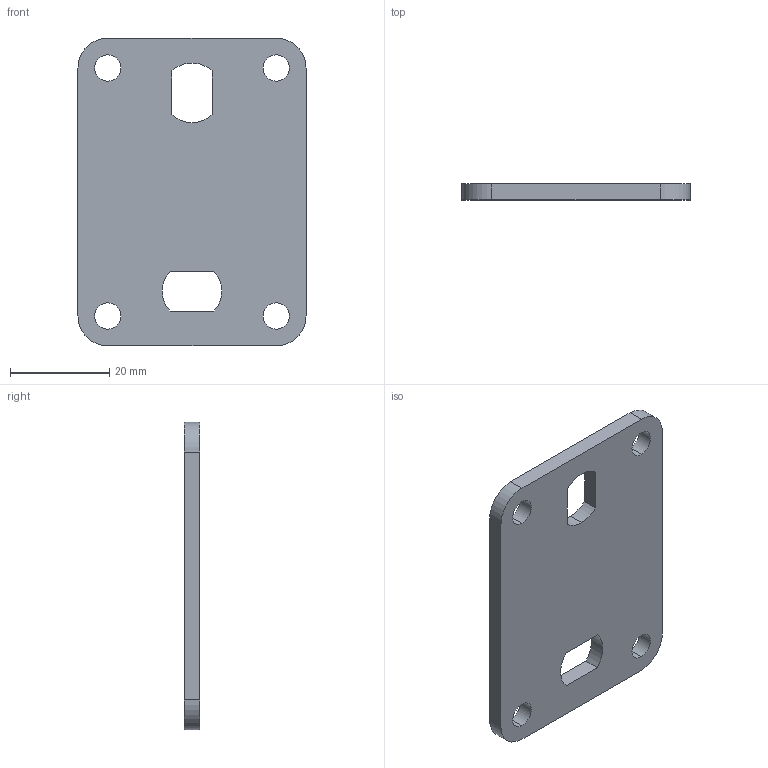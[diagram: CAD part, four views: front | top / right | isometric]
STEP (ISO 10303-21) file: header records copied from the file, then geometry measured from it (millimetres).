
FILE_DESCRIPTION (( 'STEP AP203' ), '1' );
FILE_NAME ('ターミナルプレート120.STEP', '2022-10-31T05:12:02', ( '' ), ( '' ), 'SwSTEP 2.0', 'SolidWorks 2017', '' );
FILE_SCHEMA (( 'CONFIG_CONTROL_DESIGN' ));
Length unit declared in the file: millimetre
Products named in the file (1): ターミナルプレート120
Bounding box: 46 x 3.2 x 62 mm (x, y, z)
Volume: 8174.2 mm3; surface area: 6207.4 mm2
Topology: 1 solids, 1 shells, 27 faces, 75 edges, 50 vertices
Faces by surface type: cylinder 17, plane 10
Entity records: 984 total; most frequent: DIRECTION 165, CARTESIAN_POINT 153, ORIENTED_EDGE 150, EDGE_CURVE 75, AXIS2_PLACEMENT_3D 62, VERTEX_POINT 50, LINE 41, VECTOR 41
